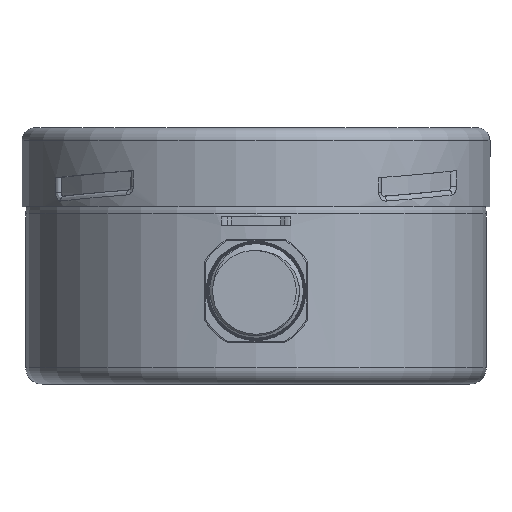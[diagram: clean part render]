
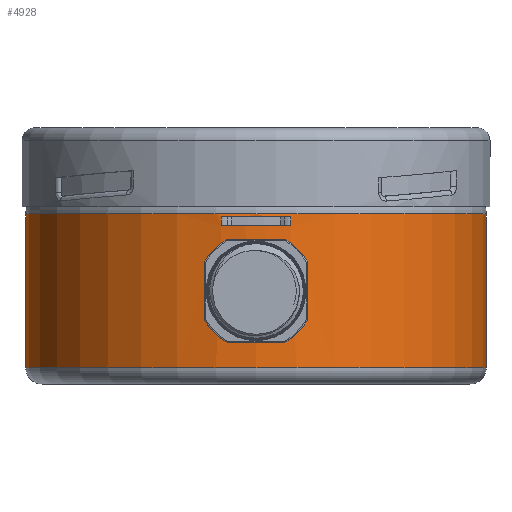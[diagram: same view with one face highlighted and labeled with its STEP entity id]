
A CAD part, front view. The second image highlights one B-rep face of the part: STEP entity #4928.
In plain terms, the highlighted cylindrical face has radius 49.4 mm (diameter 98.8 mm), a full revolution.
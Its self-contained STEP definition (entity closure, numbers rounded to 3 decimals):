
#75=FACE_BOUND('',#1843,.T.);
#76=FACE_BOUND('',#1844,.T.);
#158=LINE('',#7720,#653);
#159=LINE('',#7725,#654);
#160=LINE('',#7728,#655);
#653=VECTOR('',#5712,49.4);
#654=VECTOR('',#5715,1000.);
#655=VECTOR('',#5718,1000.);
#1147=CIRCLE('',#5294,49.4);
#1152=CIRCLE('',#5300,49.4);
#1153=CIRCLE('',#5302,49.4);
#1154=CIRCLE('',#5303,49.4);
#1211=CYLINDRICAL_SURFACE('',#5301,49.4);
#1552=FACE_OUTER_BOUND('',#1842,.T.);
#1842=EDGE_LOOP('',(#3431,#3432,#3433,#3434));
#1843=EDGE_LOOP('',(#3435,#3436));
#1844=EDGE_LOOP('',(#3437,#3438,#3439,#3440));
#2157=B_SPLINE_CURVE_WITH_KNOTS('',3,(#6845,#6846,#6847,#6848,#6849,#6850,
#6851,#6852,#6853,#6854,#6855,#6856,#6857,#6858,#6859,#6860,#6861,#6862,
#6863),.UNSPECIFIED.,.F.,.F.,(4,2,2,2,3,2,2,2,4),(0.057,0.062,
0.067,0.072,0.077,0.081,
0.086,0.091,0.096),.UNSPECIFIED.);
#2158=B_SPLINE_CURVE_WITH_KNOTS('',3,(#6864,#6865,#6866,#6867,#6868,#6869,
#6870,#6871,#6872,#6873,#6874,#6875,#6876,#6877,#6878,#6879,#6880,#6881),
 .UNSPECIFIED.,.F.,.F.,(4,2,2,2,2,2,2,2,4),(0.019,0.024,
0.029,0.033,0.038,0.043,
0.048,0.053,0.057),.UNSPECIFIED.);
#2249=VERTEX_POINT('',#6843);
#2250=VERTEX_POINT('',#6844);
#2288=VERTEX_POINT('',#7708);
#2291=VERTEX_POINT('',#7716);
#2292=VERTEX_POINT('',#7721);
#2293=VERTEX_POINT('',#7722);
#2294=VERTEX_POINT('',#7724);
#2295=VERTEX_POINT('',#7726);
#2688=EDGE_CURVE('',#2249,#2250,#2157,.T.);
#2689=EDGE_CURVE('',#2250,#2249,#2158,.T.);
#2734=EDGE_CURVE('',#2288,#2288,#1147,.T.);
#2739=EDGE_CURVE('',#2291,#2291,#1152,.T.);
#2740=EDGE_CURVE('',#2291,#2288,#158,.T.);
#2741=EDGE_CURVE('',#2292,#2293,#1153,.T.);
#2742=EDGE_CURVE('',#2294,#2292,#159,.T.);
#2743=EDGE_CURVE('',#2295,#2294,#1154,.T.);
#2744=EDGE_CURVE('',#2295,#2293,#160,.T.);
#3431=ORIENTED_EDGE('',*,*,#2739,.F.);
#3432=ORIENTED_EDGE('',*,*,#2740,.T.);
#3433=ORIENTED_EDGE('',*,*,#2734,.T.);
#3434=ORIENTED_EDGE('',*,*,#2740,.F.);
#3435=ORIENTED_EDGE('',*,*,#2689,.T.);
#3436=ORIENTED_EDGE('',*,*,#2688,.T.);
#3437=ORIENTED_EDGE('',*,*,#2741,.F.);
#3438=ORIENTED_EDGE('',*,*,#2742,.F.);
#3439=ORIENTED_EDGE('',*,*,#2743,.F.);
#3440=ORIENTED_EDGE('',*,*,#2744,.T.);
#4928=ADVANCED_FACE('',(#1552,#75,#76),#1211,.T.);
#5294=AXIS2_PLACEMENT_3D('',#7709,#5696,#5697);
#5300=AXIS2_PLACEMENT_3D('',#7718,#5708,#5709);
#5301=AXIS2_PLACEMENT_3D('',#7719,#5710,#5711);
#5302=AXIS2_PLACEMENT_3D('',#7723,#5713,#5714);
#5303=AXIS2_PLACEMENT_3D('',#7727,#5716,#5717);
#5696=DIRECTION('center_axis',(0.,0.,1.));
#5697=DIRECTION('ref_axis',(0.,-1.,0.));
#5708=DIRECTION('center_axis',(0.,0.,1.));
#5709=DIRECTION('ref_axis',(0.,-1.,0.));
#5710=DIRECTION('center_axis',(0.,0.,1.));
#5711=DIRECTION('ref_axis',(0.,-1.,0.));
#5712=DIRECTION('',(0.,0.,-1.));
#5713=DIRECTION('center_axis',(0.,0.,1.));
#5714=DIRECTION('ref_axis',(1.,0.,0.));
#5715=DIRECTION('',(0.,0.,-1.));
#5716=DIRECTION('center_axis',(0.,0.,-1.));
#5717=DIRECTION('ref_axis',(-1.,0.,0.));
#5718=DIRECTION('',(0.,0.,-1.));
#6843=CARTESIAN_POINT('',(0.,-49.4,19.873));
#6844=CARTESIAN_POINT('',(0.,-49.4,20.127));
#6845=CARTESIAN_POINT('Ctrl Pts',(0.,-49.4,19.873));
#6846=CARTESIAN_POINT('Ctrl Pts',(-0.016,-49.4,19.873));
#6847=CARTESIAN_POINT('Ctrl Pts',(-0.033,-49.4,
19.876));
#6848=CARTESIAN_POINT('Ctrl Pts',(-0.064,-49.4,
19.889));
#6849=CARTESIAN_POINT('Ctrl Pts',(-0.079,-49.4,
19.899));
#6850=CARTESIAN_POINT('Ctrl Pts',(-0.101,-49.4,
19.921));
#6851=CARTESIAN_POINT('Ctrl Pts',(-0.111,-49.4,
19.936));
#6852=CARTESIAN_POINT('Ctrl Pts',(-0.124,-49.4,
19.967));
#6853=CARTESIAN_POINT('Ctrl Pts',(-0.127,-49.4,19.984));
#6854=CARTESIAN_POINT('Ctrl Pts',(-0.127,-49.4,20.));
#6855=CARTESIAN_POINT('Ctrl Pts',(-0.127,-49.4,20.016));
#6856=CARTESIAN_POINT('Ctrl Pts',(-0.124,-49.4,
20.033));
#6857=CARTESIAN_POINT('Ctrl Pts',(-0.111,-49.4,
20.064));
#6858=CARTESIAN_POINT('Ctrl Pts',(-0.101,-49.4,
20.079));
#6859=CARTESIAN_POINT('Ctrl Pts',(-0.079,-49.4,
20.101));
#6860=CARTESIAN_POINT('Ctrl Pts',(-0.064,-49.4,
20.111));
#6861=CARTESIAN_POINT('Ctrl Pts',(-0.033,-49.4,
20.124));
#6862=CARTESIAN_POINT('Ctrl Pts',(-0.016,-49.4,20.127));
#6863=CARTESIAN_POINT('Ctrl Pts',(0.,-49.4,20.127));
#6864=CARTESIAN_POINT('Ctrl Pts',(0.,-49.4,20.127));
#6865=CARTESIAN_POINT('Ctrl Pts',(0.016,-49.4,20.127));
#6866=CARTESIAN_POINT('Ctrl Pts',(0.033,-49.4,
20.124));
#6867=CARTESIAN_POINT('Ctrl Pts',(0.064,-49.4,
20.111));
#6868=CARTESIAN_POINT('Ctrl Pts',(0.079,-49.4,
20.101));
#6869=CARTESIAN_POINT('Ctrl Pts',(0.101,-49.4,20.079));
#6870=CARTESIAN_POINT('Ctrl Pts',(0.111,-49.4,20.064));
#6871=CARTESIAN_POINT('Ctrl Pts',(0.124,-49.4,20.033));
#6872=CARTESIAN_POINT('Ctrl Pts',(0.127,-49.4,20.016));
#6873=CARTESIAN_POINT('Ctrl Pts',(0.127,-49.4,19.984));
#6874=CARTESIAN_POINT('Ctrl Pts',(0.124,-49.4,19.967));
#6875=CARTESIAN_POINT('Ctrl Pts',(0.111,-49.4,19.936));
#6876=CARTESIAN_POINT('Ctrl Pts',(0.101,-49.4,19.921));
#6877=CARTESIAN_POINT('Ctrl Pts',(0.079,-49.4,
19.899));
#6878=CARTESIAN_POINT('Ctrl Pts',(0.064,-49.4,
19.889));
#6879=CARTESIAN_POINT('Ctrl Pts',(0.033,-49.4,19.876));
#6880=CARTESIAN_POINT('Ctrl Pts',(0.016,-49.4,19.873));
#6881=CARTESIAN_POINT('Ctrl Pts',(0.,-49.4,19.873));
#7708=CARTESIAN_POINT('',(0.,49.4,3.5));
#7709=CARTESIAN_POINT('Origin',(0.,0.,3.5));
#7716=CARTESIAN_POINT('',(0.,49.4,36.5));
#7718=CARTESIAN_POINT('Origin',(0.,0.,36.5));
#7719=CARTESIAN_POINT('Origin',(0.,0.,0.));
#7720=CARTESIAN_POINT('',(0.,49.4,0.));
#7721=CARTESIAN_POINT('',(-7.488,-48.829,34.));
#7722=CARTESIAN_POINT('',(7.488,-48.829,34.));
#7723=CARTESIAN_POINT('Origin',(0.,0.,34.));
#7724=CARTESIAN_POINT('',(-7.488,-48.829,35.9));
#7725=CARTESIAN_POINT('',(-7.488,-48.829,50.952));
#7726=CARTESIAN_POINT('',(7.488,-48.829,35.9));
#7727=CARTESIAN_POINT('Origin',(0.,0.,35.9));
#7728=CARTESIAN_POINT('',(7.488,-48.829,50.952));
